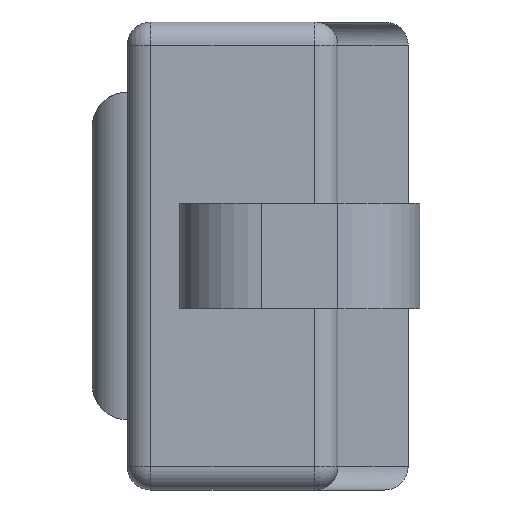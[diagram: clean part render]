
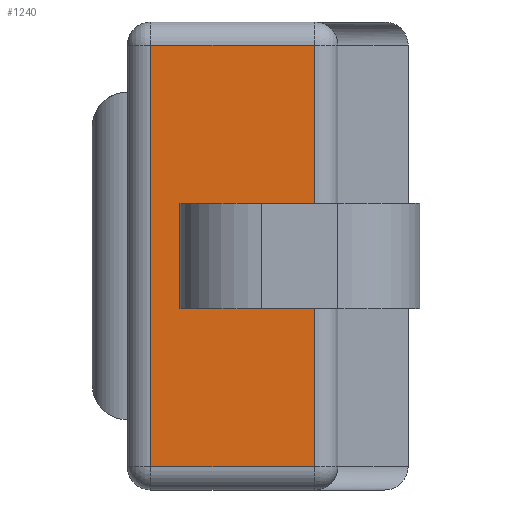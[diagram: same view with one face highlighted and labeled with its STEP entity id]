
A CAD part, left-side view. The second image highlights one B-rep face of the part: STEP entity #1240.
In plain terms, the highlighted planar face has unit normal (-1, 0, 0).
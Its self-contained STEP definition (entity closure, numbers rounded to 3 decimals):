
#1201 = CARTESIAN_POINT ( 'NONE',  ( -1.05, 1.15, 0.9 ) ) ;
#1202 = VERTEX_POINT ( 'NONE', #1201 ) ;
#1203 = CARTESIAN_POINT ( 'NONE',  ( -1.05, 1.15, -0.9 ) ) ;
#1204 = VERTEX_POINT ( 'NONE', #1203 ) ;
#1205 = CARTESIAN_POINT ( 'NONE',  ( -1.05, 1.15, 1. ) ) ;
#1206 = DIRECTION ( 'NONE',  ( 0., 0., -1. ) ) ;
#1207 = VECTOR ( 'NONE', #1206, 1000. ) ;
#1208 = LINE ( 'NONE', #1205, #1207 ) ;
#1209 = EDGE_CURVE ( 'NONE', #1202, #1204, #1208, .T. ) ;
#1210 = ORIENTED_EDGE ( 'NONE', *, *, #1209, .T. ) ;
#1211 = CARTESIAN_POINT ( 'NONE',  ( -1.05, 0.45, -0.9 ) ) ;
#1212 = VERTEX_POINT ( 'NONE', #1211 ) ;
#1213 = CARTESIAN_POINT ( 'NONE',  ( -1.05, 1.25, -0.9 ) ) ;
#1214 = DIRECTION ( 'NONE',  ( 0., -1., 0. ) ) ;
#1215 = VECTOR ( 'NONE', #1214, 1000. ) ;
#1216 = LINE ( 'NONE', #1213, #1215 ) ;
#1217 = EDGE_CURVE ( 'NONE', #1204, #1212, #1216, .T. ) ;
#1218 = ORIENTED_EDGE ( 'NONE', *, *, #1217, .T. ) ;
#1219 = CARTESIAN_POINT ( 'NONE',  ( -1.05, 0.45, 0.9 ) ) ;
#1220 = VERTEX_POINT ( 'NONE', #1219 ) ;
#1221 = CARTESIAN_POINT ( 'NONE',  ( -1.05, 0.45, 1. ) ) ;
#1222 = DIRECTION ( 'NONE',  ( 0., 0., 1. ) ) ;
#1223 = VECTOR ( 'NONE', #1222, 1000. ) ;
#1224 = LINE ( 'NONE', #1221, #1223 ) ;
#1225 = EDGE_CURVE ( 'NONE', #1212, #1220, #1224, .T. ) ;
#1226 = ORIENTED_EDGE ( 'NONE', *, *, #1225, .T. ) ;
#1227 = CARTESIAN_POINT ( 'NONE',  ( -1.05, 1.25, 0.9 ) ) ;
#1228 = DIRECTION ( 'NONE',  ( 0., 1., 0. ) ) ;
#1229 = VECTOR ( 'NONE', #1228, 1000. ) ;
#1230 = LINE ( 'NONE', #1227, #1229 ) ;
#1231 = EDGE_CURVE ( 'NONE', #1220, #1202, #1230, .T. ) ;
#1232 = ORIENTED_EDGE ( 'NONE', *, *, #1231, .T. ) ;
#1233 = EDGE_LOOP ( 'NONE', ( #1210, #1218, #1226, #1232 ) ) ;
#1234 = FACE_OUTER_BOUND ( 'NONE', #1233, .T. ) ;
#1235 = CARTESIAN_POINT ( 'NONE',  ( -1.05, 1.25, 1. ) ) ;
#1236 = DIRECTION ( 'NONE',  ( 1., 0., 0. ) ) ;
#1237 = DIRECTION ( 'NONE',  ( 0., 0., -1. ) ) ;
#1238 = AXIS2_PLACEMENT_3D ( 'NONE', #1235, #1236, #1237 ) ;
#1239 = PLANE ( 'NONE', #1238 ) ;
#1240 = ADVANCED_FACE ( 'NONE', ( #1234 ), #1239, .F. ) ;
